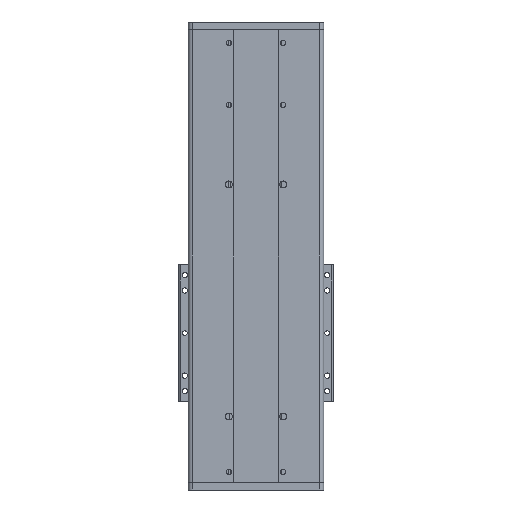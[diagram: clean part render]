
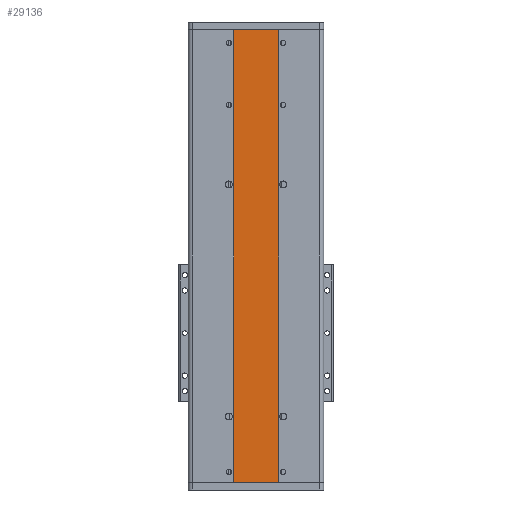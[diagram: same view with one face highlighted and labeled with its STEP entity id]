
A CAD part, front view. The second image highlights one B-rep face of the part: STEP entity #29136.
In plain terms, the highlighted planar face has unit normal (0, -1, 0).
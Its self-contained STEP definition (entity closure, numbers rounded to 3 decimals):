
#1042 = VECTOR ( 'NONE', #40173, 1000. ) ;
#2641 = EDGE_CURVE ( 'NONE', #36098, #13627, #36069, .T. ) ;
#3062 = VECTOR ( 'NONE', #27305, 1000. ) ;
#8169 = CARTESIAN_POINT ( 'NONE',  ( 1.27, -85.314, 585. ) ) ;
#10070 = FACE_OUTER_BOUND ( 'NONE', #32102, .T. ) ;
#10255 = DIRECTION ( 'NONE',  ( 0., 0., 1. ) ) ;
#11432 = CARTESIAN_POINT ( 'NONE',  ( 0., -85.314, 0. ) ) ;
#13231 = LINE ( 'NONE', #25209, #19711 ) ;
#13603 = EDGE_CURVE ( 'NONE', #20409, #36098, #13231, .T. ) ;
#13627 = VERTEX_POINT ( 'NONE', #38086 ) ;
#13664 = ORIENTED_EDGE ( 'NONE', *, *, #30111, .F. ) ;
#16144 = EDGE_CURVE ( 'NONE', #20884, #13627, #26500, .T. ) ;
#17725 = CARTESIAN_POINT ( 'NONE',  ( 1.27, -85.314, 0. ) ) ;
#17914 = CARTESIAN_POINT ( 'NONE',  ( 1.27, -85.314, -1295. ) ) ;
#17949 = ORIENTED_EDGE ( 'NONE', *, *, #13603, .T. ) ;
#18889 = CARTESIAN_POINT ( 'NONE',  ( 58.27, -85.314, 0. ) ) ;
#19711 = VECTOR ( 'NONE', #28425, 1000. ) ;
#20409 = VERTEX_POINT ( 'NONE', #18889 ) ;
#20884 = VERTEX_POINT ( 'NONE', #17725 ) ;
#21202 = ORIENTED_EDGE ( 'NONE', *, *, #2641, .T. ) ;
#22260 = CARTESIAN_POINT ( 'NONE',  ( 58.27, -85.314, 585. ) ) ;
#22972 = PLANE ( 'NONE',  #34400 ) ;
#25209 = CARTESIAN_POINT ( 'NONE',  ( 58.27, -85.314, -1295. ) ) ;
#26150 = CARTESIAN_POINT ( 'NONE',  ( 1.27, -85.314, -1295. ) ) ;
#26500 = LINE ( 'NONE', #17914, #1042 ) ;
#27305 = DIRECTION ( 'NONE',  ( -1., 0., 0. ) ) ;
#27354 = DIRECTION ( 'NONE',  ( -1., 0., 0. ) ) ;
#28425 = DIRECTION ( 'NONE',  ( 0., 0., 1. ) ) ;
#28674 = ORIENTED_EDGE ( 'NONE', *, *, #16144, .F. ) ;
#29001 = VECTOR ( 'NONE', #27354, 1000. ) ;
#29136 = ADVANCED_FACE ( 'NONE', ( #10070 ), #22972, .F. ) ;
#29391 = DIRECTION ( 'NONE',  ( 0., 1., 0. ) ) ;
#29985 = LINE ( 'NONE', #11432, #29001 ) ;
#30111 = EDGE_CURVE ( 'NONE', #20409, #20884, #29985, .T. ) ;
#32102 = EDGE_LOOP ( 'NONE', ( #17949, #21202, #28674, #13664 ) ) ;
#34400 = AXIS2_PLACEMENT_3D ( 'NONE', #26150, #29391, #10255 ) ;
#36069 = LINE ( 'NONE', #8169, #3062 ) ;
#36098 = VERTEX_POINT ( 'NONE', #22260 ) ;
#38086 = CARTESIAN_POINT ( 'NONE',  ( 1.27, -85.314, 585. ) ) ;
#40173 = DIRECTION ( 'NONE',  ( 0., 0., 1. ) ) ;
